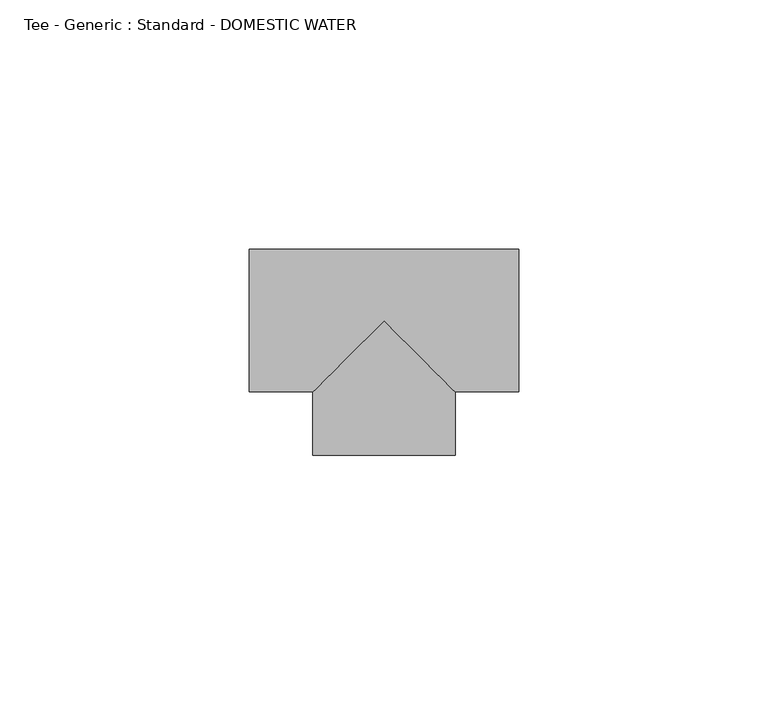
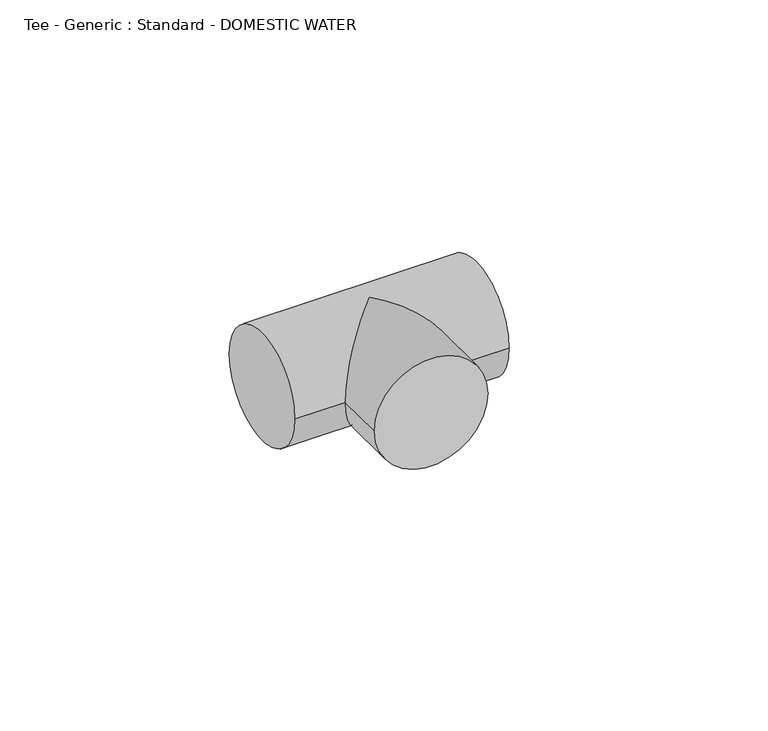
"""IFC4 building model written with IfcOpenShell, lengths in millimetres: pipe fitting geometry, Tee - Generic : Standard - DOMESTIC WATER."""

from ifc_helpers import new_model, si_unit, frame, origin, place, context, project, spatial, circle_curve, ellipse_curve, source, transform, mapped, element, save
from ifc_brep_helpers import plane_surface, cylinder_surface, advanced_brep


def tee_generic_standard_domestic_water_84a11a3e(model_context):
    return source(origin(), model_context, "Body", "AdvancedBrep", [
        advanced_brep(
        [(-26.9875, -14.2875, 0.0), (-26.9875, 14.2875, 0.0), (26.9875, -14.2875, 0.0), (26.9875, 14.2875, 0.0), (-14.2905871, -14.2875, 0.0), (0.0, 0.0, 14.2875), (14.2844135, -14.2875, 0.0), (0.0, 0.0, -14.2875), (-14.2933303, -26.9844126, 0.0), (14.2816691, -26.9905862, 0.0)],
        [
            (0, 1, circle_curve(frame((-26.9875, 0.0, 0.0), z_axis=(-1.0, 0.0, 0.0), x_axis=(0.0, 1.0, 0.0)), 14.2875)),
            (1, 0, circle_curve(frame((-26.9875, 0.0, 0.0), z_axis=(-1.0, 0.0, 0.0), x_axis=(0.0, 1.0, 0.0)), 14.2875)),
            (2, 3, circle_curve(frame((26.9875, 0.0, 0.0), z_axis=(1.0, 0.0, 0.0), x_axis=(0.0, 1.0, 0.0)), 14.2875)),
            (3, 2, circle_curve(frame((26.9875, 0.0, 0.0), z_axis=(1.0, 0.0, 0.0), x_axis=(0.0, 1.0, 0.0)), 14.2875)),
            (0, 4),
            (4, 5, ellipse_curve(frame((0.0, 0.0, 0.0), z_axis=(-0.7070303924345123, 0.7071831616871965, 0.0), x_axis=(-0.7071831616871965, -0.7070303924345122, 0.0)), 20.2077593, 14.2875)),
            (5, 6, ellipse_curve(frame((0.0, 0.0, 0.0), z_axis=(0.7071831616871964, 0.7070303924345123, 0.0), x_axis=(-0.7070303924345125, 0.7071831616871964, 0.0)), 20.2033939, 14.2875)),
            (6, 2),
            (3, 1),
            (6, 7, ellipse_curve(frame((0.0, 0.0, 0.0), z_axis=(0.7071831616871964, 0.7070303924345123, 0.0), x_axis=(-0.7070303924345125, 0.7071831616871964, 0.0)), 20.2033939, 14.2875)),
            (7, 4, ellipse_curve(frame((0.0, 0.0, 0.0), z_axis=(-0.7070303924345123, 0.7071831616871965, 0.0), x_axis=(-0.7071831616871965, -0.7070303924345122, 0.0)), 20.2077593, 14.2875)),
            (8, 9, circle_curve(frame((-0.0058306, -26.9874994, 0.0), z_axis=(-0.0002160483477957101, -0.9999999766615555, 0.0), x_axis=(0.9999999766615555, -0.0002160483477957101, 0.0)), 14.2875)),
            (9, 8, circle_curve(frame((-0.0058306, -26.9874994, 0.0), z_axis=(-0.0002160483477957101, -0.9999999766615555, 0.0), x_axis=(0.9999999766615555, -0.0002160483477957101, 0.0)), 14.2875)),
            (9, 6),
            (4, 8),
        ],
        [
            plane_surface(frame((-26.9875, 0.0, 0.0), z_axis=(-1.0, 0.0, 0.0), x_axis=(0.0, 0.0, 1.0))),
            plane_surface(frame((26.9875, 0.0, 0.0), z_axis=(1.0, 0.0, 0.0), x_axis=(0.0, 0.0, 1.0))),
            cylinder_surface(frame((-26.9875, 0.0, 0.0), z_axis=(-1.0, 0.0, 0.0), x_axis=(0.0, 1.0, 0.0)), 14.2875),
            plane_surface(frame((-0.0058306, -26.9874994, 0.0), z_axis=(-0.0002160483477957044, -0.9999999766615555, 0.0), x_axis=(0.0, 0.0, 1.0))),
            cylinder_surface(frame((0.0, 0.0, 0.0), z_axis=(0.0002160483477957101, 0.9999999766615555, 0.0), x_axis=(0.9999999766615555, -0.0002160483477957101, 0.0)), 14.2875),
        ],
        [
            (0, [[1, 2]]),
            (1, [[3, 4]]),
            (2, [[-1, 5, 6, 7, 8, -4, 9]]),
            (2, [[-2, -9, -3, -8, 10, 11, -5]]),
            (3, [[12, 13]]),
            (4, [[-13, 14, -7, -6, 15]]),
            (4, [[-12, -15, -11, -10, -14]]),
        ],
    ),
        advanced_brep(
        [(-26.9875, -14.2875, 0.0), (-26.9875, 14.2875, 0.0), (26.9875, -14.2875, 0.0), (26.9875, 14.2875, 0.0), (-14.2905871, -14.2875, 0.0), (0.0, 0.0, 14.2875), (14.2844135, -14.2875, 0.0), (0.0, 0.0, -14.2875), (-14.2933303, -26.9844126, 0.0), (14.2816691, -26.9905862, 0.0)],
        [
            (0, 1, circle_curve(frame((-26.9875, 0.0, 0.0), z_axis=(-1.0, 0.0, 0.0), x_axis=(0.0, 1.0, 0.0)), 14.2875)),
            (1, 0, circle_curve(frame((-26.9875, 0.0, 0.0), z_axis=(-1.0, 0.0, 0.0), x_axis=(0.0, 1.0, 0.0)), 14.2875)),
            (2, 3, circle_curve(frame((26.9875, 0.0, 0.0), z_axis=(1.0, 0.0, 0.0), x_axis=(0.0, 1.0, 0.0)), 14.2875)),
            (3, 2, circle_curve(frame((26.9875, 0.0, 0.0), z_axis=(1.0, 0.0, 0.0), x_axis=(0.0, 1.0, 0.0)), 14.2875)),
            (0, 4),
            (4, 5, ellipse_curve(frame((0.0, 0.0, 0.0), z_axis=(-0.7070303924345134, 0.7071831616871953, 0.0), x_axis=(-0.7071831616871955, -0.7070303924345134, 0.0)), 20.2077593, 14.2875)),
            (5, 6, ellipse_curve(frame((0.0, 0.0, 0.0), z_axis=(0.7071831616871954, 0.7070303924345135, 0.0), x_axis=(-0.7070303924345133, 0.7071831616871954, 0.0)), 20.2033939, 14.2875)),
            (6, 2),
            (3, 1),
            (6, 7, ellipse_curve(frame((0.0, 0.0, 0.0), z_axis=(0.7071831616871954, 0.7070303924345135, 0.0), x_axis=(-0.7070303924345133, 0.7071831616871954, 0.0)), 20.2033939, 14.2875)),
            (7, 4, ellipse_curve(frame((0.0, 0.0, 0.0), z_axis=(-0.7070303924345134, 0.7071831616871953, 0.0), x_axis=(-0.7071831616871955, -0.7070303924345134, 0.0)), 20.2077593, 14.2875)),
            (8, 9, circle_curve(frame((-0.0058306, -26.9874994, 0.0), z_axis=(-0.0002160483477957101, -0.9999999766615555, 0.0), x_axis=(0.9999999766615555, -0.0002160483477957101, 0.0)), 14.2875)),
            (9, 8, circle_curve(frame((-0.0058306, -26.9874994, 0.0), z_axis=(-0.0002160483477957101, -0.9999999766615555, 0.0), x_axis=(0.9999999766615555, -0.0002160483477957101, 0.0)), 14.2875)),
            (9, 6),
            (4, 8),
        ],
        [
            plane_surface(frame((-26.9875, 0.0, 0.0), z_axis=(-1.0, 0.0, 0.0), x_axis=(0.0, 0.0, 1.0))),
            plane_surface(frame((26.9875, 0.0, 0.0), z_axis=(1.0, 0.0, 0.0), x_axis=(0.0, 0.0, 1.0))),
            cylinder_surface(frame((-26.9875, 0.0, 0.0), z_axis=(-1.0, 0.0, 0.0), x_axis=(0.0, 1.0, 0.0)), 14.2875),
            plane_surface(frame((-0.0058306, -26.9874994, 0.0), z_axis=(-0.0002160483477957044, -0.9999999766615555, 0.0), x_axis=(0.0, 0.0, 1.0))),
            cylinder_surface(frame((0.0, 0.0, 0.0), z_axis=(0.0002160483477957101, 0.9999999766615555, 0.0), x_axis=(0.9999999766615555, -0.0002160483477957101, 0.0)), 14.2875),
        ],
        [
            (0, [[1, 2]]),
            (1, [[3, 4]]),
            (2, [[-1, 5, 6, 7, 8, -4, 9]]),
            (2, [[-2, -9, -3, -8, 10, 11, -5]]),
            (3, [[12, 13]]),
            (4, [[-13, 14, -7, -6, 15]]),
            (4, [[-12, -15, -11, -10, -14]]),
        ],
    ),
    ])


if __name__ == "__main__":
    model = new_model("IFC4")
    model_context = context("Model", 3, world=origin())
    ifc_project = project(units=[si_unit("LENGTHUNIT", "METRE", prefix="MILLI")], contexts=[model_context])
    site = spatial("IfcSite", under=ifc_project)
    building = spatial("IfcBuilding", under=site)
    placement = place(None, origin())
    tee_generic_standard_domestic_water_shape = tee_generic_standard_domestic_water_84a11a3e(model_context)
    element("IfcPipeFitting", 1, ObjectType="Tee - Generic : Standard - DOMESTIC WATER", at=placement, inside=building, context=model_context, shape_type="MappedRepresentation", body=[
        mapped(tee_generic_standard_domestic_water_shape, transform((0.0, 0.0, 0.0), x_axis=(1.0, 0.0, 0.0), y_axis=(0.0, 1.0, 0.0), z_axis=(0.0, 0.0, 1.0))),
    ])
    save(model, "model.ifc")
